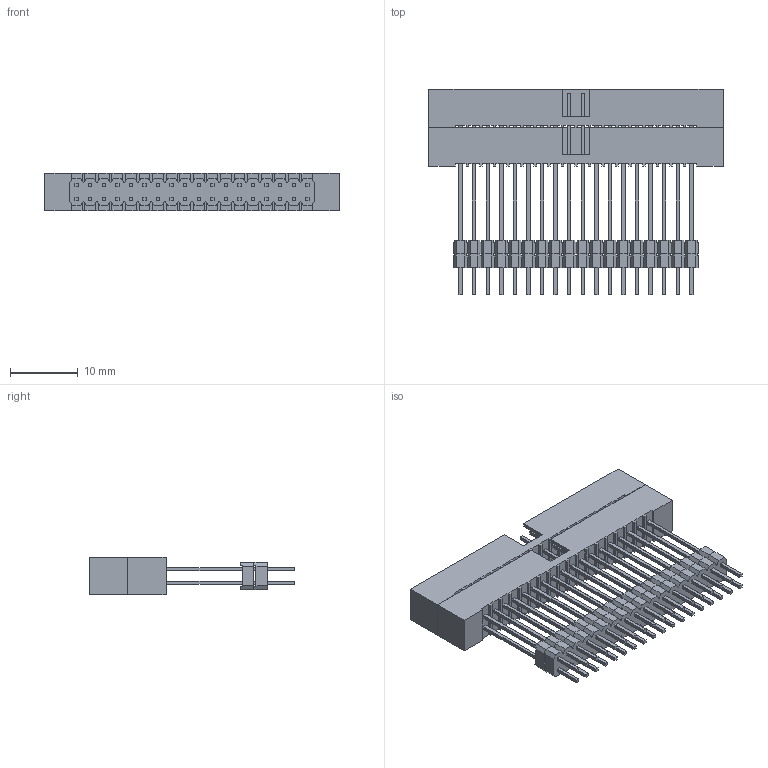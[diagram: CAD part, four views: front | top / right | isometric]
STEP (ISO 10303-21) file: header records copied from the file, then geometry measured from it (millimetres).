
FILE_DESCRIPTION (( 'STEP AP203' ), '1' );
FILE_NAME ('HC-JN200-2-18-Z-14.95-XX-2DP (简牛2.00 双排 双座 双塑 直排母-HCTL)--（锦善）.STEP', '2025-08-07T01:02:19', ( '' ), ( '' ), 'SwSTEP 2.0', 'SolidWorks 2025', '' );
FILE_SCHEMA (( 'CONFIG_CONTROL_DESIGN' ));
Length unit declared in the file: millimetre
Products named in the file (1): HC-JN200-2-18-Z-14.95-XX-2DP (简牛2.00 双排 双座 双塑 直排母-HCTL)--（锦善）
Bounding box: 43.34 x 30.25 x 5.5 mm (x, y, z)
Volume: 1723.4 mm3; surface area: 5463 mm2
Topology: 1 solids, 1 shells, 1400 faces, 3960 edges, 2640 vertices
Faces by surface type: plane 1400
Entity records: 44861 total; most frequent: CARTESIAN_POINT 8001, ORIENTED_EDGE 7920, DIRECTION 6762, VECTOR 3960, EDGE_CURVE 3960, LINE 3960, VERTEX_POINT 2640, EDGE_LOOP 1688
